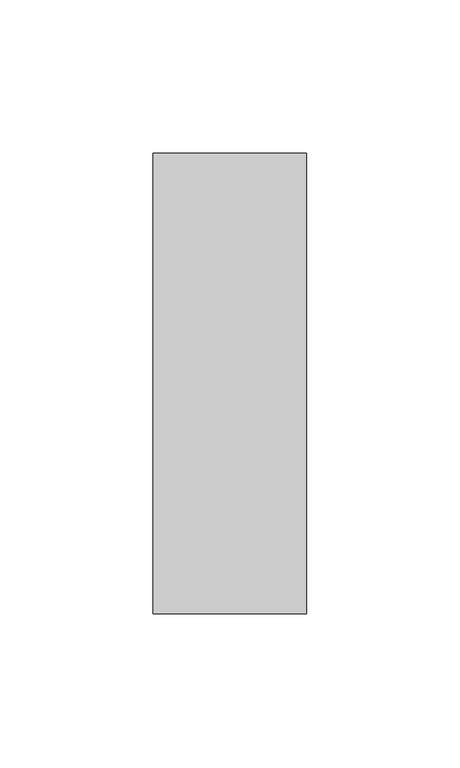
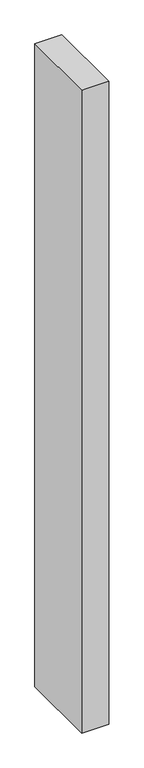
"""IFC4 building model written with IfcOpenShell, lengths in millimetres: member geometry, Прямоугольный импост : 50 x 150 мм."""

from ifc_helpers import new_model, si_unit, frame, origin, place, context, project, spatial, polyline, outline, extrude, source, transform, mapped, element, save


def member_fc2f9087(model_context):
    return source(origin(), model_context, "Body", "SweptSolid", [
        extrude(outline(polyline([(25.0, 75.0), (25.0, -75.0), (-25.0, -75.0), (-25.0, 75.0), (25.0, 75.0)])), frame((0.0, 0.0, -1256.4203315), z_axis=(0.0, 0.0, 1.0), x_axis=(1.0, 0.0, 0.0)), (0.0, 0.0, 1.0), 1256.4203315),
    ])


if __name__ == "__main__":
    model = new_model("IFC4")
    model_context = context("Model", 3, world=origin())
    ifc_project = project(units=[si_unit("LENGTHUNIT", "METRE", prefix="MILLI")], contexts=[model_context])
    site = spatial("IfcSite", under=ifc_project)
    building = spatial("IfcBuilding", under=site)
    placement = place(None, origin())
    member_shape = member_fc2f9087(model_context)
    element("IfcMember", 1, ObjectType="Прямоугольный импост : 50 x 150 мм", at=placement, inside=building, context=model_context, shape_type="MappedRepresentation", body=[
        mapped(member_shape, transform((0.0, 0.0, 0.0), x_axis=(1.0, 0.0, 0.0), y_axis=(0.0, 1.0, 0.0), z_axis=(0.0, 0.0, 1.0))),
    ])
    save(model, "model.ifc")
